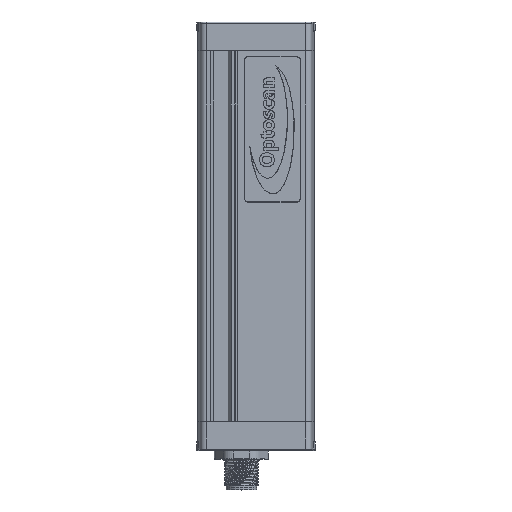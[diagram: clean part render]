
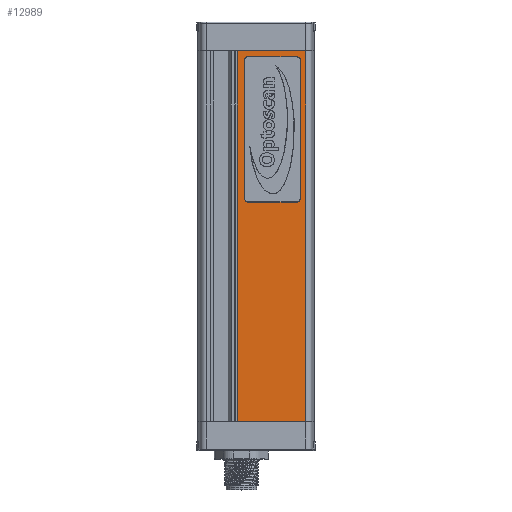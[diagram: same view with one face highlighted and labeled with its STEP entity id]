
A CAD part, top view. The second image highlights one B-rep face of the part: STEP entity #12989.
In plain terms, the highlighted planar face has unit normal (0, 0, 1).
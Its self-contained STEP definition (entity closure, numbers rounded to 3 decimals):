
#157=FACE_BOUND('',#2163,.T.);
#429=CIRCLE('',#13653,1.45);
#435=CIRCLE('',#13661,1.45);
#439=CIRCLE('',#13667,1.45);
#443=CIRCLE('',#13673,1.45);
#1007=PLANE('',#13786);
#1449=FACE_OUTER_BOUND('',#2162,.T.);
#2162=EDGE_LOOP('',(#9392,#9393,#9394,#9395));
#2163=EDGE_LOOP('',(#9396,#9397,#9398,#9399,#9400,#9401,#9402,#9403));
#3054=LINE('',#19231,#4083);
#3056=LINE('',#19243,#4085);
#3058=LINE('',#19255,#4087);
#3060=LINE('',#19264,#4089);
#3271=LINE('',#21431,#4300);
#3272=LINE('',#21433,#4301);
#3273=LINE('',#21435,#4302);
#3274=LINE('',#21436,#4303);
#4083=VECTOR('',#15218,10.);
#4085=VECTOR('',#15232,10.);
#4087=VECTOR('',#15246,10.);
#4089=VECTOR('',#15258,10.);
#4300=VECTOR('',#15693,10.);
#4301=VECTOR('',#15694,10.);
#4302=VECTOR('',#15695,10.);
#4303=VECTOR('',#15696,10.);
#5216=VERTEX_POINT('',#19219);
#5217=VERTEX_POINT('',#19221);
#5219=VERTEX_POINT('',#19227);
#5221=VERTEX_POINT('',#19233);
#5223=VERTEX_POINT('',#19239);
#5225=VERTEX_POINT('',#19245);
#5227=VERTEX_POINT('',#19251);
#5229=VERTEX_POINT('',#19257);
#5471=VERTEX_POINT('',#21429);
#5472=VERTEX_POINT('',#21430);
#5473=VERTEX_POINT('',#21432);
#5474=VERTEX_POINT('',#21434);
#6518=EDGE_CURVE('',#5216,#5217,#429,.T.);
#6523=EDGE_CURVE('',#5217,#5219,#3054,.T.);
#6526=EDGE_CURVE('',#5219,#5221,#435,.T.);
#6529=EDGE_CURVE('',#5221,#5223,#3056,.T.);
#6532=EDGE_CURVE('',#5223,#5225,#439,.T.);
#6535=EDGE_CURVE('',#5225,#5227,#3058,.T.);
#6538=EDGE_CURVE('',#5227,#5229,#443,.T.);
#6540=EDGE_CURVE('',#5229,#5216,#3060,.T.);
#6909=EDGE_CURVE('',#5471,#5472,#3271,.T.);
#6910=EDGE_CURVE('',#5472,#5473,#3272,.T.);
#6911=EDGE_CURVE('',#5474,#5473,#3273,.T.);
#6912=EDGE_CURVE('',#5471,#5474,#3274,.T.);
#9392=ORIENTED_EDGE('',*,*,#6909,.T.);
#9393=ORIENTED_EDGE('',*,*,#6910,.T.);
#9394=ORIENTED_EDGE('',*,*,#6911,.F.);
#9395=ORIENTED_EDGE('',*,*,#6912,.F.);
#9396=ORIENTED_EDGE('',*,*,#6518,.F.);
#9397=ORIENTED_EDGE('',*,*,#6540,.F.);
#9398=ORIENTED_EDGE('',*,*,#6538,.F.);
#9399=ORIENTED_EDGE('',*,*,#6535,.F.);
#9400=ORIENTED_EDGE('',*,*,#6532,.F.);
#9401=ORIENTED_EDGE('',*,*,#6529,.F.);
#9402=ORIENTED_EDGE('',*,*,#6526,.F.);
#9403=ORIENTED_EDGE('',*,*,#6523,.F.);
#12989=ADVANCED_FACE('',(#1449,#157),#1007,.T.);
#13653=AXIS2_PLACEMENT_3D('',#19222,#15207,#15208);
#13661=AXIS2_PLACEMENT_3D('',#19237,#15225,#15226);
#13667=AXIS2_PLACEMENT_3D('',#19249,#15239,#15240);
#13673=AXIS2_PLACEMENT_3D('',#19261,#15253,#15254);
#13786=AXIS2_PLACEMENT_3D('',#21428,#15691,#15692);
#15207=DIRECTION('center_axis',(0.,0.,
1.));
#15208=DIRECTION('ref_axis',(1.,0.,0.));
#15218=DIRECTION('',(1.,0.,0.));
#15225=DIRECTION('center_axis',(0.,0.,
1.));
#15226=DIRECTION('ref_axis',(1.,0.,0.));
#15232=DIRECTION('',(0.,1.,0.));
#15239=DIRECTION('center_axis',(0.,0.,
1.));
#15240=DIRECTION('ref_axis',(1.,0.,0.));
#15246=DIRECTION('',(-1.,0.,0.));
#15253=DIRECTION('center_axis',(0.,0.,
1.));
#15254=DIRECTION('ref_axis',(1.,0.,0.));
#15258=DIRECTION('',(0.,-1.,0.));
#15691=DIRECTION('center_axis',(0.,0.,
1.));
#15692=DIRECTION('ref_axis',(1.,0.,0.));
#15693=DIRECTION('',(1.,0.,0.));
#15694=DIRECTION('',(0.,1.,0.));
#15695=DIRECTION('',(1.,0.,0.));
#15696=DIRECTION('',(0.,1.,0.));
#19219=CARTESIAN_POINT('',(-42.765,76.7,28.879));
#19221=CARTESIAN_POINT('',(-41.315,75.25,28.879));
#19222=CARTESIAN_POINT('Origin',(-41.315,76.7,28.879));
#19227=CARTESIAN_POINT('',(-24.915,75.25,28.879));
#19231=CARTESIAN_POINT('',(-37.215,75.25,28.879));
#19233=CARTESIAN_POINT('',(-23.465,76.7,28.879));
#19237=CARTESIAN_POINT('Origin',(-24.915,76.7,28.879));
#19239=CARTESIAN_POINT('',(-23.465,123.5,28.879));
#19243=CARTESIAN_POINT('',(-23.465,88.4,28.879));
#19245=CARTESIAN_POINT('',(-24.915,124.95,28.879));
#19249=CARTESIAN_POINT('Origin',(-24.915,123.5,28.879));
#19251=CARTESIAN_POINT('',(-41.315,124.95,28.879));
#19255=CARTESIAN_POINT('',(-29.015,124.95,28.879));
#19257=CARTESIAN_POINT('',(-42.765,123.5,28.879));
#19261=CARTESIAN_POINT('Origin',(-41.315,123.5,28.879));
#19264=CARTESIAN_POINT('',(-42.765,111.8,28.879));
#21428=CARTESIAN_POINT('Origin',(-44.965,0.,
28.879));
#21429=CARTESIAN_POINT('',(-44.965,0.,28.879));
#21430=CARTESIAN_POINT('',(-21.664,0.,28.879));
#21431=CARTESIAN_POINT('',(-44.965,0.,28.879));
#21432=CARTESIAN_POINT('',(-21.664,127.,28.879));
#21433=CARTESIAN_POINT('',(-21.664,0.,28.879));
#21434=CARTESIAN_POINT('',(-44.965,127.,28.879));
#21435=CARTESIAN_POINT('',(-44.965,127.,28.879));
#21436=CARTESIAN_POINT('',(-44.965,0.,28.879));
